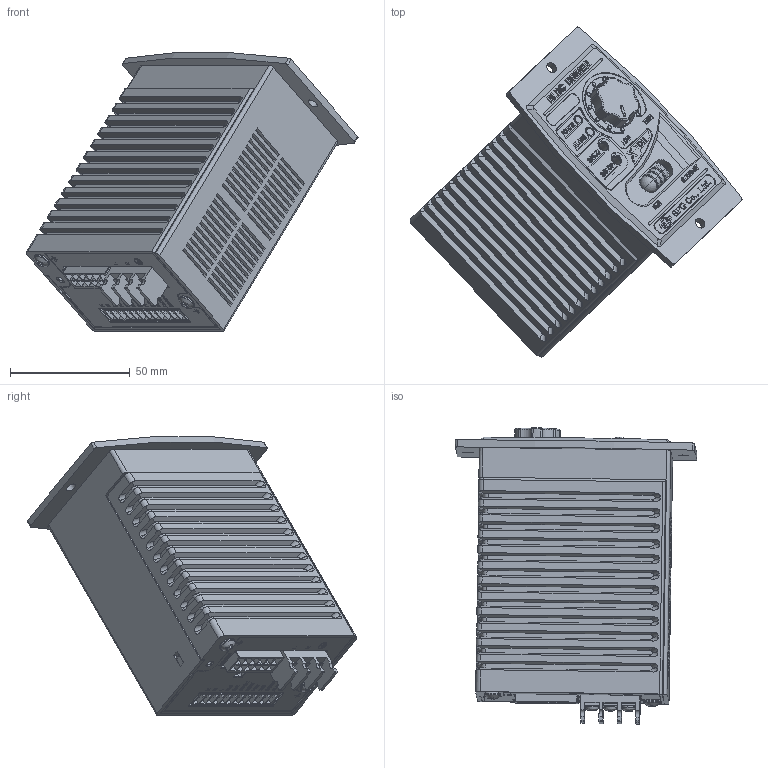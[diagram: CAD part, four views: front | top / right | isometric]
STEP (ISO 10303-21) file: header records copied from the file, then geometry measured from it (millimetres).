
FILE_DESCRIPTION((''),'2;1');
FILE_NAME('\\Spgrnd02\공용폴더\Inventor-3D작업\에스피지 제품-3D작업\☆홍보용3D파일-IGES\표준 BLDC\XWD-DRIVER\XWD(홈페이지등재용).stp','2014-06-19T15:46:07',('namhun'),(''),'Autodesk Inventor 2013','Autodesk Inventor 2013','');
FILE_SCHEMA(('AUTOMOTIVE_DESIGN { 1 0 10303 214 1 1 1 1 }'));
Length unit declared in the file: millimetre
Products named in the file (1): 부품19
Bounding box: 138.83 x 137.91 x 116.58 mm (x, y, z)
Volume: 146260.2 mm3; surface area: 142153.4 mm2
Topology: 4 solids, 16 shells, 4893 faces, 13117 edges, 8622 vertices
Faces by surface type: plane 3604, bspline 620, cylinder 545, torus 67, cone 40, sphere 17
Full cylindrical faces by diameter (mm): 1.5 x11, 2 x2, 2.2 x2, 2.459 x1, 2.5 x6, 3 x15, 3.19 x2, 3.2 x6, 3.242 x2, 3.3 x5, 3.4 x1, 3.5 x3, 3.6 x1, 3.85 x6, 4 x13, 4.5 x2, 5.4 x3, 5.6 x5, 5.8 x3, 6 x2, 7 x3, 10 x2, 16 x1, 21 x1, 25 x1
Entity records: 159327 total; most frequent: CARTESIAN_POINT 35645, ORIENTED_EDGE 25748, DIRECTION 21492, EDGE_CURVE 12874, VECTOR 10128, LINE 10128, VERTEX_POINT 8554, EDGE_LOOP 5786
